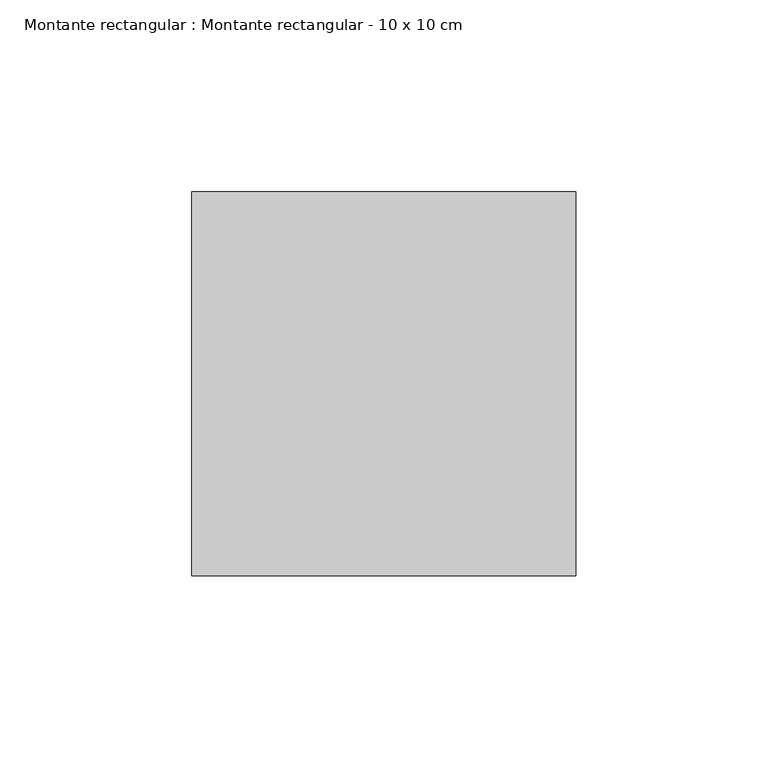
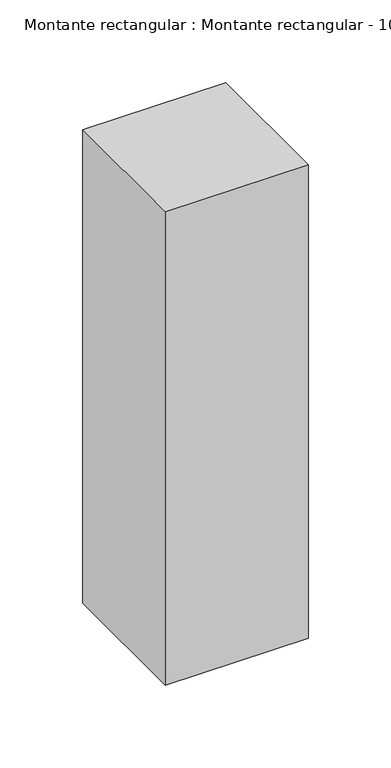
"""IFC4 building model written with IfcOpenShell, lengths in millimetres: member geometry, Montante rectangular : Montante rectangular - 10 x 10 cm."""

from ifc_helpers import new_model, si_unit, frame, origin, place, context, project, spatial, polyline, outline, extrude, source, transform, mapped, element, save


def montante_rectangular_montante_rectangular_10_x_10_cm_2760fa18(model_context):
    return source(origin(), model_context, "Body", "SweptSolid", [
        extrude(outline(polyline([(0.0, -50.0), (-100.0, -50.0), (-100.0, 50.0), (0.0, 50.0), (0.0, -50.0)])), frame((0.0, 0.0, -350.0), z_axis=(0.0, 0.0, 1.0), x_axis=(1.0, 0.0, 0.0)), (0.0, 0.0, 1.0), 350.0),
    ])


if __name__ == "__main__":
    model = new_model("IFC4")
    model_context = context("Model", 3, world=origin())
    ifc_project = project(units=[si_unit("LENGTHUNIT", "METRE", prefix="MILLI")], contexts=[model_context])
    site = spatial("IfcSite", under=ifc_project)
    building = spatial("IfcBuilding", under=site)
    placement = place(None, origin())
    montante_rectangular_montante_rectangular_10_x_10_cm_shape = montante_rectangular_montante_rectangular_10_x_10_cm_2760fa18(model_context)
    element("IfcMember", 1, ObjectType="Montante rectangular : Montante rectangular - 10 x 10 cm", at=placement, inside=building, context=model_context, shape_type="MappedRepresentation", body=[
        mapped(montante_rectangular_montante_rectangular_10_x_10_cm_shape, transform((0.0, 0.0, 0.0), x_axis=(1.0, 0.0, 0.0), y_axis=(0.0, 1.0, 0.0), z_axis=(0.0, 0.0, 1.0))),
    ])
    save(model, "model.ifc")
